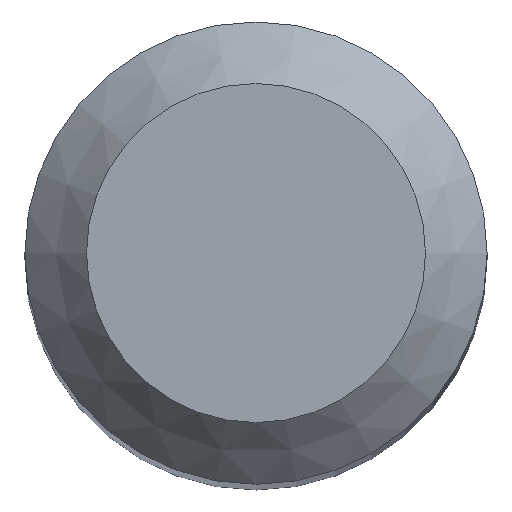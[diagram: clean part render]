
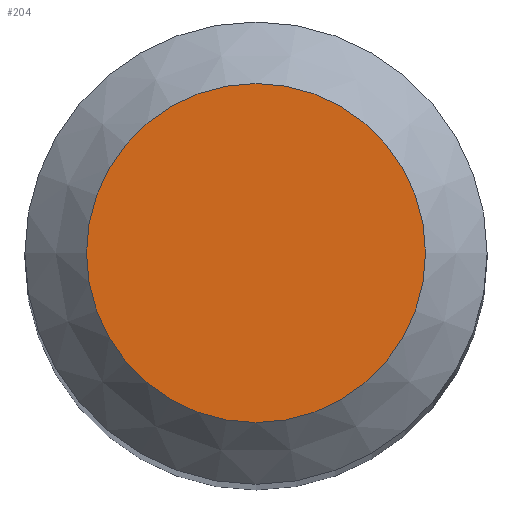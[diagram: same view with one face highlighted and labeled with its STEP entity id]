
A CAD part, top view. The second image highlights one B-rep face of the part: STEP entity #204.
In plain terms, the highlighted planar face has unit normal (0, 0, 1).
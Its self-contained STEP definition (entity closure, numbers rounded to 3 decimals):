
#184=CARTESIAN_POINT('',(-2.2,0.,60.));
#185=VERTEX_POINT('',#184);
#186=CARTESIAN_POINT('',(0.,0.,60.));
#187=DIRECTION('',(0.,0.0,-1.0));
#188=DIRECTION('',(-1.0,0.0,0.));
#189=AXIS2_PLACEMENT_3D('',#186,#187,#188);
#190=CIRCLE('',#189,2.2);
#191=EDGE_CURVE('',#185,#185,#190,.T.);
#196=CARTESIAN_POINT('',(0.,0.,60.));
#197=DIRECTION('',(0.,0.0,-1.0));
#198=DIRECTION('',(-1.0,0.0,0.));
#199=AXIS2_PLACEMENT_3D('',#196,#197,#198);
#200=PLANE('',#199);
#201=ORIENTED_EDGE('',*,*,#191,.F.);
#202=EDGE_LOOP('',(#201));
#203=FACE_OUTER_BOUND('',#202,.T.);
#204=ADVANCED_FACE('',(#203),#200,.F.);
